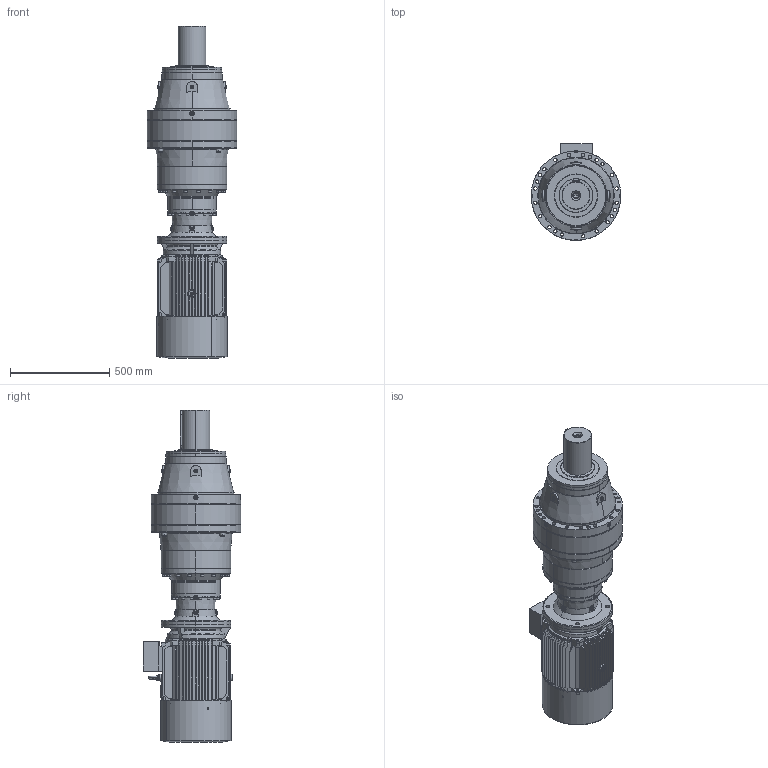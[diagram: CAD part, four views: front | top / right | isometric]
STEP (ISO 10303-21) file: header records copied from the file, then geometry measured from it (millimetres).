
FILE_DESCRIPTION (( 'STEP AP203' ), '1' );
FILE_NAME ('PVL-3503L-HS180M-4.STEP', '2019-05-27T08:48:46', ( '' ), ( '' ), 'SwSTEP 2.0', 'SolidWorks 2012', '' );
FILE_SCHEMA (( 'CONFIG_CONTROL_DESIGN' ));
Products named in the file (15): M3-HS180M-FF-B5; PVL-3503L-HS180M-4; Y2-180-4.6.8+ª-¯ª­-È®+_-++ñ; Y2-180MB5+À+¿_-++ñ; Eyebolts GB_GB_FASTENER_SCREWS_FRS M12_1; M3-180M-FF-B5; PNL_3503L_0_0_A18_B5_ML55A_FL17A_0_0_0_0_0_0_0_0_0_0_0_M1; Y2-180-4.6.8-ª+---®+_-++ñ; Y2-180+¦i-_-++ñ; Y2-180C++A+¦-¯ª¦+¦_-++ñ; ML55A_Varsayìlan; EK3503L_Varsayìlan; FL17A_Varsayìlan; 15180B5_Varsayìlan; P35_Varsayìlan
Assembly tree (14 placements, depth 4):
  PVL-3503L-HS180M-4
    PNL_3503L_0_0_A18_B5_ML55A_FL17A_0_0_0_0_0_0_0_0_0_0_0_M1
      P35_Varsayìlan
      15180B5_Varsayìlan
      ML55A_Varsayìlan
      EK3503L_Varsayìlan
      FL17A_Varsayìlan
    M3-HS180M-FF-B5
      M3-180M-FF-B5
        Y2-180C++A+¦-¯ª¦+¦_-++ñ
        Y2-180+¦i-_-++ñ
        Y2-180-4.6.8-ª+---®+_-++ñ
        Eyebolts GB_GB_FASTENER_SCREWS_FRS M12_1
        Y2-180MB5+À+¿_-++ñ
        Y2-180-4.6.8+ª-¯ª­-È®+_-++ñ
Bounding box: 450 x 488.55 x 1670.5 mm (x, y, z)
Volume: 92701071.4 mm3; surface area: 5171324.8 mm2
Topology: 16 solids, 16 shells, 2941 faces, 7726 edges, 4904 vertices
Faces by surface type: plane 1228, cylinder 917, bspline 383, cone 381, torus 32
Entity records: 112509 total; most frequent: CARTESIAN_POINT 39983, ORIENTED_EDGE 15240, DIRECTION 14565, EDGE_CURVE 7620, AXIS2_PLACEMENT_3D 5655, VERTEX_POINT 4904, EDGE_LOOP 3386, VECTOR 3255
